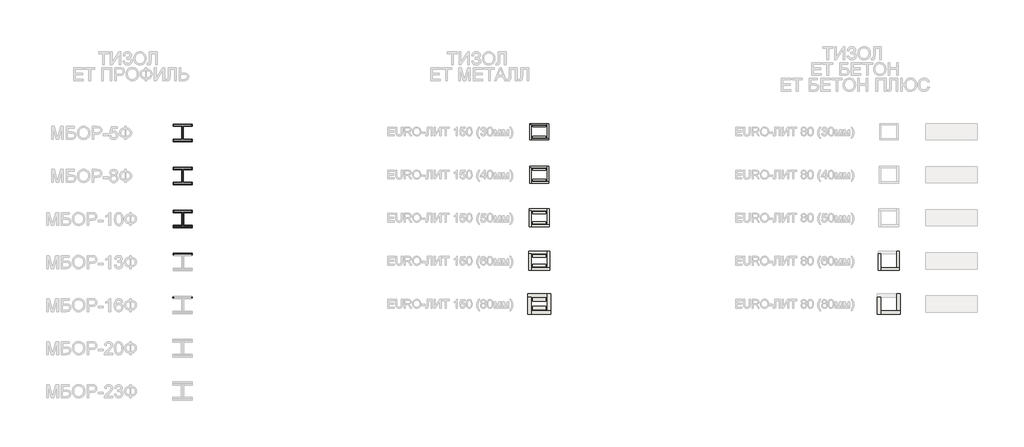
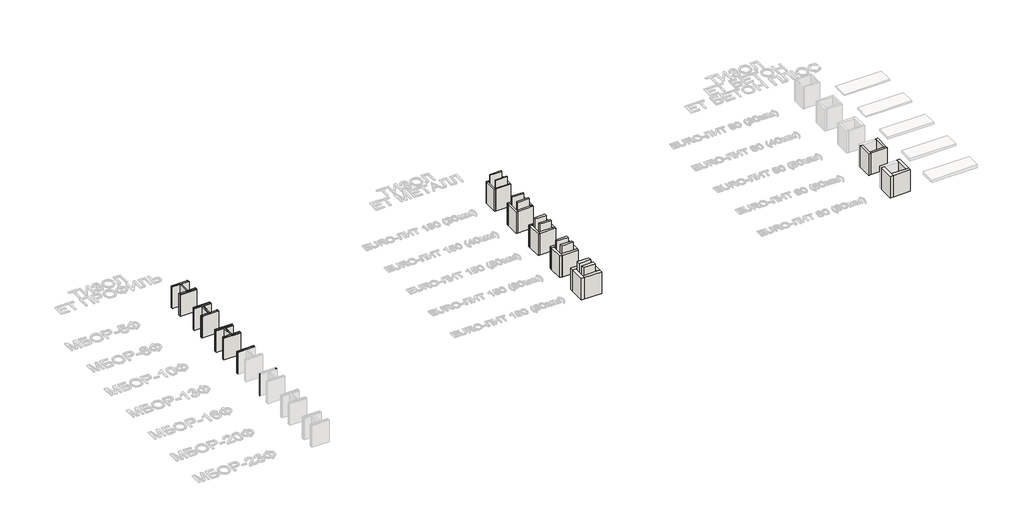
# One storey, part 3 of 35: 77 walls.
"""IFC4 building model written with IfcOpenShell, lengths in millimetres."""

import ifcopenshell
import ifcopenshell.guid

model = None  # the IFC model being written
_history = None  # IfcOwnerHistory: only IFC2X3 demands one
_inside = {}  # id of a spatial element -> (the spatial element, [elements in it])
_under = {}  # id of a project, library or spatial element -> (it, [spatial elements below it])
_declared = {}  # id of a project -> (the project, [libraries it declares])
_typed = {}  # id of a type object -> (the type object, [elements of that type])
_made_of = {}  # id of a material, layer set ... -> (it, [elements and type objects made of it])


def new_model(schema):
    """Start an empty IFC model of exactly this schema.

    Asked for "IFC4X3", IfcOpenShell would pick the latest addendum, in which some entities
    have other attributes; the version numbers below select the first issue.
    IFC2X3 requires an IfcOwnerHistory on every rooted entity: one is made here for all.
    """
    global model, _history
    if schema == "IFC4X3":
        model = ifcopenshell.file(schema_version=(4, 3, 0, 0))
    else:
        model = ifcopenshell.file(schema=schema)
    _inside.clear()
    _under.clear()
    _declared.clear()
    _typed.clear()
    _made_of.clear()
    _history = None
    if model.schema == "IFC2X3":
        org = make("IfcOrganization", Name="unknown")
        user = make(
            "IfcPersonAndOrganization",
            ThePerson=make("IfcPerson", FamilyName="unknown"),
            TheOrganization=org,
        )
        app = make(
            "IfcApplication",
            ApplicationDeveloper=org,
            Version="unknown",
            ApplicationFullName="unknown",
            ApplicationIdentifier="unknown",
        )
        _history = make(
            "IfcOwnerHistory",
            OwningUser=user,
            OwningApplication=app,
            ChangeAction="ADDED",
            CreationDate=0,
        )
    return model


def make(cls, **values):
    """One entity of the class cls with the attributes given. An attribute that is None is left unset."""
    return model.create_entity(
        cls, **{name: value for name, value in values.items() if value is not None}
    )


def rooted(cls, **values):
    """An entity with a GlobalId (a new one), such as an element, a storey or a relation."""
    return make(cls, GlobalId=ifcopenshell.guid.new(), OwnerHistory=_history, **values)


def si_unit(unit_type, name, prefix=None):
    """IfcSIUnit, for example si_unit("LENGTHUNIT", "METRE", prefix="MILLI")."""
    return make("IfcSIUnit", UnitType=unit_type, Prefix=prefix, Name=name)


def assignment(units):
    """IfcUnitAssignment: the units of a project."""
    return None if units is None else make("IfcUnitAssignment", Units=units)


def point(xyz):
    """IfcCartesianPoint."""
    return None if xyz is None else make("IfcCartesianPoint", Coordinates=xyz)


def direction(xyz):
    """IfcDirection."""
    return None if xyz is None else make("IfcDirection", DirectionRatios=xyz)


def frame(location, z_axis=None, x_axis=None):
    """IfcAxis2Placement3D, a coordinate frame: its origin and axes. An axis left out is left unset."""
    return make(
        "IfcAxis2Placement3D",
        Location=point(location),
        Axis=direction(z_axis),
        RefDirection=direction(x_axis),
    )


def origin():
    """The frame at (0, 0, 0) with its axes left unset."""
    return frame((0.0, 0.0, 0.0))


def origin_with_axes():
    """The frame at (0, 0, 0) with the z axis (0, 0, 1) and the x axis (1, 0, 0) written out."""
    return frame((0.0, 0.0, 0.0), z_axis=(0.0, 0.0, 1.0), x_axis=(1.0, 0.0, 0.0))


def place(relative_to, where):
    """IfcLocalPlacement: puts the frame where relative to a parent placement (None: the world)."""
    return make(
        "IfcLocalPlacement", PlacementRelTo=relative_to, RelativePlacement=where
    )


def context(
    kind, dimensions, precision=None, world=None, true_north=None, identifier=None
):
    """IfcGeometricRepresentationContext, for example the 3D "Model" context."""
    return make(
        "IfcGeometricRepresentationContext",
        ContextIdentifier=identifier,
        ContextType=kind,
        CoordinateSpaceDimension=dimensions,
        Precision=precision,
        WorldCoordinateSystem=world,
        TrueNorth=true_north,
    )


def project(units=None, contexts=None):
    """IfcProject with its units and contexts."""
    return rooted(
        "IfcProject",
        Name="project",
        RepresentationContexts=contexts,
        UnitsInContext=assignment(units),
    )


def spatial(cls, under=None, at=None, **own):
    """A site, building, storey or space (cls), placed at a placement, below another one or the project."""
    s = rooted(cls, ObjectPlacement=at, **own)
    if under is not None:
        _under.setdefault(under.id(), (under, []))[1].append(s)
    return s


def polyline(points):
    """IfcPolyline through the points."""
    return make("IfcPolyline", Points=[point(p) for p in points])


def outline(outer, holes=None, kind="AREA"):
    """IfcArbitraryClosedProfileDef: a profile drawn as a closed curve; with holes, ...WithVoids."""
    if holes is None:
        return make("IfcArbitraryClosedProfileDef", ProfileType=kind, OuterCurve=outer)
    return make(
        "IfcArbitraryProfileDefWithVoids",
        ProfileType=kind,
        OuterCurve=outer,
        InnerCurves=holes,
    )


def extrude(swept, where, along, depth):
    """IfcExtrudedAreaSolid: the profile swept, set in the frame where, extruded along a direction by depth."""
    return make(
        "IfcExtrudedAreaSolid",
        SweptArea=swept,
        Position=where,
        ExtrudedDirection=direction(along),
        Depth=depth,
    )


def faces_of(points, faces, orient=None, outer=None):
    """IfcFace entities. A face is a list of loops; a loop is a list of indices into points, from 0.

    orient and outer hold one flag for each loop. By default every Orientation is true, the
    first loop of a face is its IfcFaceOuterBound and the others are IfcFaceBound.
    """
    made = []
    for i, loops in enumerate(faces):
        bounds = []
        for j, loop in enumerate(loops):
            is_outer = j == 0 if outer is None else outer[i][j]
            bounds.append(
                make(
                    "IfcFaceOuterBound" if is_outer else "IfcFaceBound",
                    Bound=make("IfcPolyLoop", Polygon=[points[k] for k in loop]),
                    Orientation=True if orient is None else orient[i][j],
                )
            )
        made.append(make("IfcFace", Bounds=bounds))
    return made


def faceted_brep(points, faces, orient=None, outer=None, voids=None):
    """IfcFacetedBrep: a solid bounded by flat faces; with voids (closed shells), ...WithVoids."""
    shared = [point(p) for p in points]
    hull = make("IfcClosedShell", CfsFaces=faces_of(shared, faces, orient, outer))
    if voids is None:
        return make("IfcFacetedBrep", Outer=hull)
    return make(
        "IfcFacetedBrepWithVoids",
        Outer=hull,
        Voids=[
            make(cls, CfsFaces=faces_of(shared, fs, o, b)) for cls, fs, o, b in voids
        ],
    )


def shape(context_of_items, identifier, shape_type, items):
    """IfcShapeRepresentation: the items that make up one representation, for example the "Body"."""
    return make(
        "IfcShapeRepresentation",
        ContextOfItems=context_of_items,
        RepresentationIdentifier=identifier,
        RepresentationType=shape_type,
        Items=items,
    )


def made_of(thing, what):
    """Note that an element or type object is made of a material, layer set ...; save() writes the relation."""
    if what is not None:
        _made_of.setdefault(what.id(), (what, []))[1].append(thing)
    return thing


def element(
    cls,
    number,
    at=None,
    inside=None,
    cuts=None,
    type_object=None,
    material=None,
    context=None,
    identifier="Body",
    shape_type=None,
    held_by="IfcProductDefinitionShape",
    body=None,
    shapes=None,
    **own,
):
    """One element of the class cls, such as IfcWall. Its Tag is "e" and its number.

    at: its placement. inside: the storey or other place that contains it. cuts: it is an
    opening in that element (IfcRelVoidsElement). A single representation is given by context,
    identifier, shape_type and body (its items); several are given by shapes. held_by: the class
    of the entity that holds the representations. save() writes the other relations.
    """
    e = rooted(cls, Tag="e%d" % number, ObjectPlacement=at, **own)
    if body is not None:
        shapes = [shape(context, identifier, shape_type, body)]
    if shapes is not None:
        e.Representation = make(held_by, Representations=shapes)
    if inside is not None:
        _inside.setdefault(inside.id(), (inside, []))[1].append(e)
    if cuts is not None:
        rooted(
            "IfcRelVoidsElement", RelatingBuildingElement=cuts, RelatedOpeningElement=e
        )
    if type_object is not None:
        _typed.setdefault(type_object.id(), (type_object, []))[1].append(e)
    return made_of(e, material)


def aggregate(whole, parts):
    """IfcRelAggregates: a whole, such as a stair, and the parts it consists of."""
    return rooted("IfcRelAggregates", RelatingObject=whole, RelatedObjects=parts)


def save(model, path):
    """Write the relations noted so far, then the file.

    IfcRelAggregates (storeys below a building ...), IfcRelContainedInSpatialStructure (elements
    in a storey), IfcRelDefinesByType, IfcRelAssociatesMaterial and IfcRelDeclares: one each for
    every whole, place, type object, material and project.
    """
    for whole, parts in _under.values():
        aggregate(whole, parts)
    for where, things in _inside.values():
        rooted(
            "IfcRelContainedInSpatialStructure",
            RelatedElements=things,
            RelatingStructure=where,
        )
    for kind, things in _typed.values():
        rooted("IfcRelDefinesByType", RelatedObjects=things, RelatingType=kind)
    for what, things in _made_of.values():
        rooted("IfcRelAssociatesMaterial", RelatedObjects=things, RelatingMaterial=what)
    for by, libraries in _declared.values():
        rooted("IfcRelDeclares", RelatingContext=by, RelatedDefinitions=libraries)
    model.write(path)


model = new_model("IFC4")

# Units and contexts
model_context = context("Model", 3, world=origin())
ifc_project = project(units=[si_unit("LENGTHUNIT", "METRE", prefix="MILLI")], contexts=[model_context])

# Site, building, storey
site = spatial("IfcSite", under=ifc_project)
building = spatial("IfcBuilding", under=site)
storey = spatial("IfcBuildingStorey", under=building, Name="Этаж 01", Elevation=0.0)

# Walls
placement = place(None, origin())
element("IfcWall", 1, ObjectType="Тизол МБОР-5Ф", at=placement, inside=storey, context=model_context, shape_type="Brep", body=[
    faceted_brep([(18448.3215627, -48960.0493767, 0.0), (18453.3215627, -48960.0493767, 0.0), (18880.8384325, -48960.0493767, 0.0), (18885.8384325, -48960.0493767, 0.0), (18885.8384325, -48960.0493767, 600.0), (18880.8384325, -48960.0493767, 600.0), (18453.3215627, -48960.0493767, 600.0), (18448.3215627, -48960.0493767, 600.0), (18448.3215627, -48955.0493767, 0.0), (18448.3215627, -48955.0493767, 600.0), (18885.8384325, -48955.0493767, 600.0), (18885.8384325, -48955.0493767, 0.0)], [[[0, 1, 2, 3, 4, 5, 6, 7]], [[8, 9, 10, 11]], [[3, 2, 1, 0, 8, 11]], [[7, 6, 5, 4, 10, 9]], [[0, 7, 9, 8]], [[4, 3, 11, 10]]]),
])
element("IfcWall", 2, ObjectType="Тизол МБОР-5Ф", at=placement, inside=storey, context=model_context, shape_type="Brep", body=[
    faceted_brep([(18885.8384325, -49355.0493767, 0.0), (18880.8384325, -49355.0493767, 0.0), (18453.3215627, -49355.0493767, 0.0), (18448.3215627, -49355.0493767, 0.0), (18448.3215627, -49355.0493767, 600.0), (18453.3215627, -49355.0493767, 600.0), (18880.8384325, -49355.0493767, 600.0), (18885.8384325, -49355.0493767, 600.0), (18885.8384325, -49360.0493767, 0.0), (18885.8384325, -49360.0493767, 600.0), (18448.3215627, -49360.0493767, 600.0), (18448.3215627, -49360.0493767, 0.0)], [[[0, 1, 2, 3, 4, 5, 6, 7]], [[8, 9, 10, 11]], [[3, 2, 1, 0, 8, 11]], [[7, 6, 5, 4, 10, 9]], [[4, 3, 11, 10]], [[0, 7, 9, 8]]]),
])
element("IfcWall", 3, ObjectType="Тизол МБОР-5Ф", at=placement, inside=storey, context=model_context, shape_type="Brep", body=[
    faceted_brep([(18453.3215627, -49355.0493767, 0.0), (18453.3215627, -49310.0493767, 0.0), (18453.3215627, -49305.0493767, 0.0), (18453.3215627, -49305.0493767, 600.0), (18453.3215627, -49310.0493767, 600.0), (18453.3215627, -49355.0493767, 600.0), (18448.3215627, -49355.0493767, 0.0), (18448.3215627, -49355.0493767, 600.0), (18448.3215627, -49305.0493767, 600.0), (18448.3215627, -49305.0493767, 0.0)], [[[0, 1, 2, 3, 4, 5]], [[6, 7, 8, 9]], [[2, 1, 0, 6, 9]], [[5, 4, 3, 8, 7]], [[0, 5, 7, 6]], [[3, 2, 9, 8]]]),
])
element("IfcWall", 4, ObjectType="Тизол МБОР-5Ф", at=placement, inside=storey, context=model_context, shape_type="Brep", body=[
    faceted_brep([(18453.3215627, -49310.0493767, 0.0), (18653.3215627, -49310.0493767, 0.0), (18653.3215627, -49310.0493767, 600.0), (18453.3215627, -49310.0493767, 600.0), (18453.3215627, -49305.0493767, 0.0), (18453.3215627, -49305.0493767, 600.0), (18648.3215627, -49305.0493767, 600.0), (18653.3215627, -49305.0493767, 600.0), (18653.3215627, -49305.0493767, 0.0), (18648.3215627, -49305.0493767, 0.0)], [[[0, 1, 2, 3]], [[4, 5, 6, 7, 8, 9]], [[1, 0, 4, 9, 8]], [[3, 2, 7, 6, 5]], [[0, 3, 5, 4]], [[2, 1, 8, 7]]]),
])
element("IfcWall", 5, ObjectType="Тизол МБОР-5Ф", at=placement, inside=storey, context=model_context, shape_type="Brep", body=[
    faceted_brep([(18653.3215627, -49305.0493767, 0.0), (18653.3215627, -49005.0493767, 0.0), (18653.3215627, -49005.0493767, 600.0), (18653.3215627, -49305.0493767, 600.0), (18648.3215627, -49305.0493767, 0.0), (18648.3215627, -49305.0493767, 600.0), (18648.3215627, -49010.0493767, 600.0), (18648.3215627, -49005.0493767, 600.0), (18648.3215627, -49005.0493767, 0.0), (18648.3215627, -49010.0493767, 0.0)], [[[0, 1, 2, 3]], [[4, 5, 6, 7, 8, 9]], [[1, 0, 4, 9, 8]], [[3, 2, 7, 6, 5]], [[0, 3, 5, 4]], [[2, 1, 8, 7]]]),
])
element("IfcWall", 6, ObjectType="Тизол МБОР-5Ф", at=placement, inside=storey, context=model_context, shape_type="Brep", body=[
    faceted_brep([(18648.3215627, -49005.0493767, 0.0), (18453.3215627, -49005.0493767, 0.0), (18448.3215627, -49005.0493767, 0.0), (18448.3215627, -49005.0493767, 600.0), (18453.3215627, -49005.0493767, 600.0), (18648.3215627, -49005.0493767, 600.0), (18648.3215627, -49010.0493767, 0.0), (18648.3215627, -49010.0493767, 600.0), (18448.3215627, -49010.0493767, 600.0), (18448.3215627, -49010.0493767, 0.0)], [[[0, 1, 2, 3, 4, 5]], [[6, 7, 8, 9]], [[2, 1, 0, 6, 9]], [[5, 4, 3, 8, 7]], [[0, 5, 7, 6]], [[3, 2, 9, 8]]]),
])
element("IfcWall", 7, ObjectType="Тизол МБОР-5Ф", at=placement, inside=storey, context=model_context, shape_type="SweptSolid", body=[
    extrude(outline(polyline([(18453.3215627, -48960.0493767), (18453.3215627, -49005.0493767), (18448.3215627, -49005.0493767), (18448.3215627, -48960.0493767), (18453.3215627, -48960.0493767)])), origin_with_axes(), (0.0, 0.0, 1.0), 600.0),
])
element("IfcWall", 8, ObjectType="Тизол МБОР-5Ф", at=placement, inside=storey, context=model_context, shape_type="Brep", body=[
    faceted_brep([(18885.8384325, -49355.0493767, 0.0), (18885.8384325, -49305.0493767, 0.0), (18885.8384325, -49305.0493767, 600.0), (18885.8384325, -49355.0493767, 600.0), (18880.8384325, -49355.0493767, 0.0), (18880.8384325, -49355.0493767, 600.0), (18880.8384325, -49310.0493767, 600.0), (18880.8384325, -49305.0493767, 600.0), (18880.8384325, -49305.0493767, 0.0), (18880.8384325, -49310.0493767, 0.0)], [[[0, 1, 2, 3]], [[4, 5, 6, 7, 8, 9]], [[1, 0, 4, 9, 8]], [[3, 2, 7, 6, 5]], [[2, 1, 8, 7]], [[0, 3, 5, 4]]]),
])
element("IfcWall", 9, ObjectType="Тизол МБОР-5Ф", at=placement, inside=storey, context=model_context, shape_type="Brep", body=[
    faceted_brep([(18880.8384325, -49305.0493767, 0.0), (18685.8384325, -49305.0493767, 0.0), (18680.8384325, -49305.0493767, 0.0), (18680.8384325, -49305.0493767, 600.0), (18685.8384325, -49305.0493767, 600.0), (18880.8384325, -49305.0493767, 600.0), (18880.8384325, -49310.0493767, 0.0), (18880.8384325, -49310.0493767, 600.0), (18680.8384325, -49310.0493767, 600.0), (18680.8384325, -49310.0493767, 0.0)], [[[0, 1, 2, 3, 4, 5]], [[6, 7, 8, 9]], [[2, 1, 0, 6, 9]], [[5, 4, 3, 8, 7]], [[0, 5, 7, 6]], [[3, 2, 9, 8]]]),
])
element("IfcWall", 10, ObjectType="Тизол МБОР-5Ф", at=placement, inside=storey, context=model_context, shape_type="Brep", body=[
    faceted_brep([(18685.8384325, -49305.0493767, 0.0), (18685.8384325, -49010.0493767, 0.0), (18685.8384325, -49005.0493767, 0.0), (18685.8384325, -49005.0493767, 600.0), (18685.8384325, -49010.0493767, 600.0), (18685.8384325, -49305.0493767, 600.0), (18680.8384325, -49305.0493767, 0.0), (18680.8384325, -49305.0493767, 600.0), (18680.8384325, -49005.0493767, 600.0), (18680.8384325, -49005.0493767, 0.0)], [[[0, 1, 2, 3, 4, 5]], [[6, 7, 8, 9]], [[2, 1, 0, 6, 9]], [[5, 4, 3, 8, 7]], [[0, 5, 7, 6]], [[3, 2, 9, 8]]]),
])
element("IfcWall", 11, ObjectType="Тизол МБОР-5Ф", at=placement, inside=storey, context=model_context, shape_type="Brep", body=[
    faceted_brep([(18685.8384325, -49010.0493767, 0.0), (18885.8384325, -49010.0493767, 0.0), (18885.8384325, -49010.0493767, 600.0), (18685.8384325, -49010.0493767, 600.0), (18685.8384325, -49005.0493767, 0.0), (18685.8384325, -49005.0493767, 600.0), (18880.8384325, -49005.0493767, 600.0), (18885.8384325, -49005.0493767, 600.0), (18885.8384325, -49005.0493767, 0.0), (18880.8384325, -49005.0493767, 0.0)], [[[0, 1, 2, 3]], [[4, 5, 6, 7, 8, 9]], [[1, 0, 4, 9, 8]], [[3, 2, 7, 6, 5]], [[0, 3, 5, 4]], [[2, 1, 8, 7]]]),
])
element("IfcWall", 12, ObjectType="Тизол МБОР-5Ф", at=placement, inside=storey, context=model_context, shape_type="SweptSolid", body=[
    extrude(outline(polyline([(18885.8384325, -48960.0493767), (18885.8384325, -49005.0493767), (18880.8384325, -49005.0493767), (18880.8384325, -48960.0493767), (18885.8384325, -48960.0493767)])), origin_with_axes(), (0.0, 0.0, 1.0), 600.0),
])
element("IfcWall", 13, ObjectType="Тизол МБОР-8Ф", at=placement, inside=storey, context=model_context, shape_type="Brep", body=[
    faceted_brep([(18446.8215627, -49961.5493767, 0.0), (18454.8215627, -49961.5493767, 0.0), (18879.3384325, -49961.5493767, 0.0), (18887.3384325, -49961.5493767, 0.0), (18887.3384325, -49961.5493767, 600.0), (18879.3384325, -49961.5493767, 600.0), (18454.8215627, -49961.5493767, 600.0), (18446.8215627, -49961.5493767, 600.0), (18446.8215627, -49953.5493767, 0.0), (18446.8215627, -49953.5493767, 600.0), (18887.3384325, -49953.5493767, 600.0), (18887.3384325, -49953.5493767, 0.0)], [[[0, 1, 2, 3, 4, 5, 6, 7]], [[8, 9, 10, 11]], [[3, 2, 1, 0, 8, 11]], [[7, 6, 5, 4, 10, 9]], [[0, 7, 9, 8]], [[4, 3, 11, 10]]]),
])
element("IfcWall", 14, ObjectType="Тизол МБОР-8Ф", at=placement, inside=storey, context=model_context, shape_type="Brep", body=[
    faceted_brep([(18887.3384325, -50353.5493767, 0.0), (18879.3384325, -50353.5493767, 0.0), (18454.8215627, -50353.5493767, 0.0), (18446.8215627, -50353.5493767, 0.0), (18446.8215627, -50353.5493767, 600.0), (18454.8215627, -50353.5493767, 600.0), (18879.3384325, -50353.5493767, 600.0), (18887.3384325, -50353.5493767, 600.0), (18887.3384325, -50361.5493767, 0.0), (18887.3384325, -50361.5493767, 600.0), (18446.8215627, -50361.5493767, 600.0), (18446.8215627, -50361.5493767, 0.0)], [[[0, 1, 2, 3, 4, 5, 6, 7]], [[8, 9, 10, 11]], [[3, 2, 1, 0, 8, 11]], [[7, 6, 5, 4, 10, 9]], [[4, 3, 11, 10]], [[0, 7, 9, 8]]]),
])
element("IfcWall", 15, ObjectType="Тизол МБОР-8Ф", at=placement, inside=storey, context=model_context, shape_type="Brep", body=[
    faceted_brep([(18454.8215627, -50353.5493767, 0.0), (18454.8215627, -50311.5493767, 0.0), (18454.8215627, -50303.5493767, 0.0), (18454.8215627, -50303.5493767, 600.0), (18454.8215627, -50311.5493767, 600.0), (18454.8215627, -50353.5493767, 600.0), (18446.8215627, -50353.5493767, 0.0), (18446.8215627, -50353.5493767, 600.0), (18446.8215627, -50303.5493767, 600.0), (18446.8215627, -50303.5493767, 0.0)], [[[0, 1, 2, 3, 4, 5]], [[6, 7, 8, 9]], [[2, 1, 0, 6, 9]], [[5, 4, 3, 8, 7]], [[0, 5, 7, 6]], [[3, 2, 9, 8]]]),
])
element("IfcWall", 16, ObjectType="Тизол МБОР-8Ф", at=placement, inside=storey, context=model_context, shape_type="Brep", body=[
    faceted_brep([(18454.8215627, -50311.5493767, 0.0), (18654.8215627, -50311.5493767, 0.0), (18654.8215627, -50311.5493767, 600.0), (18454.8215627, -50311.5493767, 600.0), (18454.8215627, -50303.5493767, 0.0), (18454.8215627, -50303.5493767, 600.0), (18646.8215627, -50303.5493767, 600.0), (18654.8215627, -50303.5493767, 600.0), (18654.8215627, -50303.5493767, 0.0), (18646.8215627, -50303.5493767, 0.0)], [[[0, 1, 2, 3]], [[4, 5, 6, 7, 8, 9]], [[1, 0, 4, 9, 8]], [[3, 2, 7, 6, 5]], [[0, 3, 5, 4]], [[2, 1, 8, 7]]]),
])
element("IfcWall", 17, ObjectType="Тизол МБОР-8Ф", at=placement, inside=storey, context=model_context, shape_type="Brep", body=[
    faceted_brep([(18654.8215627, -50303.5493767, 0.0), (18654.8215627, -50003.5493767, 0.0), (18654.8215627, -50003.5493767, 600.0), (18654.8215627, -50303.5493767, 600.0), (18646.8215627, -50303.5493767, 0.0), (18646.8215627, -50303.5493767, 600.0), (18646.8215627, -50011.5493767, 600.0), (18646.8215627, -50003.5493767, 600.0), (18646.8215627, -50003.5493767, 0.0), (18646.8215627, -50011.5493767, 0.0)], [[[0, 1, 2, 3]], [[4, 5, 6, 7, 8, 9]], [[1, 0, 4, 9, 8]], [[3, 2, 7, 6, 5]], [[0, 3, 5, 4]], [[2, 1, 8, 7]]]),
])
element("IfcWall", 18, ObjectType="Тизол МБОР-8Ф", at=placement, inside=storey, context=model_context, shape_type="Brep", body=[
    faceted_brep([(18646.8215627, -50003.5493767, 0.0), (18454.8215627, -50003.5493767, 0.0), (18446.8215627, -50003.5493767, 0.0), (18446.8215627, -50003.5493767, 600.0), (18454.8215627, -50003.5493767, 600.0), (18646.8215627, -50003.5493767, 600.0), (18646.8215627, -50011.5493767, 0.0), (18646.8215627, -50011.5493767, 600.0), (18446.8215627, -50011.5493767, 600.0), (18446.8215627, -50011.5493767, 0.0)], [[[0, 1, 2, 3, 4, 5]], [[6, 7, 8, 9]], [[2, 1, 0, 6, 9]], [[5, 4, 3, 8, 7]], [[0, 5, 7, 6]], [[3, 2, 9, 8]]]),
])
element("IfcWall", 19, ObjectType="Тизол МБОР-8Ф", at=placement, inside=storey, context=model_context, shape_type="SweptSolid", body=[
    extrude(outline(polyline([(18454.8215627, -49961.5493767), (18454.8215627, -50003.5493767), (18446.8215627, -50003.5493767), (18446.8215627, -49961.5493767), (18454.8215627, -49961.5493767)])), origin_with_axes(), (0.0, 0.0, 1.0), 600.0),
])
element("IfcWall", 20, ObjectType="Тизол МБОР-8Ф", at=placement, inside=storey, context=model_context, shape_type="Brep", body=[
    faceted_brep([(18887.3384325, -50353.5493767, 0.0), (18887.3384325, -50303.5493767, 0.0), (18887.3384325, -50303.5493767, 600.0), (18887.3384325, -50353.5493767, 600.0), (18879.3384325, -50353.5493767, 0.0), (18879.3384325, -50353.5493767, 600.0), (18879.3384325, -50311.5493767, 600.0), (18879.3384325, -50303.5493767, 600.0), (18879.3384325, -50303.5493767, 0.0), (18879.3384325, -50311.5493767, 0.0)], [[[0, 1, 2, 3]], [[4, 5, 6, 7, 8, 9]], [[1, 0, 4, 9, 8]], [[3, 2, 7, 6, 5]], [[2, 1, 8, 7]], [[0, 3, 5, 4]]]),
])
element("IfcWall", 21, ObjectType="Тизол МБОР-8Ф", at=placement, inside=storey, context=model_context, shape_type="Brep", body=[
    faceted_brep([(18879.3384325, -50303.5493767, 0.0), (18687.3384325, -50303.5493767, 0.0), (18679.3384325, -50303.5493767, 0.0), (18679.3384325, -50303.5493767, 600.0), (18687.3384325, -50303.5493767, 600.0), (18879.3384325, -50303.5493767, 600.0), (18879.3384325, -50311.5493767, 0.0), (18879.3384325, -50311.5493767, 600.0), (18679.3384325, -50311.5493767, 600.0), (18679.3384325, -50311.5493767, 0.0)], [[[0, 1, 2, 3, 4, 5]], [[6, 7, 8, 9]], [[2, 1, 0, 6, 9]], [[5, 4, 3, 8, 7]], [[0, 5, 7, 6]], [[3, 2, 9, 8]]]),
])
element("IfcWall", 22, ObjectType="Тизол МБОР-8Ф", at=placement, inside=storey, context=model_context, shape_type="Brep", body=[
    faceted_brep([(18687.3384325, -50303.5493767, 0.0), (18687.3384325, -50011.5493767, 0.0), (18687.3384325, -50003.5493767, 0.0), (18687.3384325, -50003.5493767, 600.0), (18687.3384325, -50011.5493767, 600.0), (18687.3384325, -50303.5493767, 600.0), (18679.3384325, -50303.5493767, 0.0), (18679.3384325, -50303.5493767, 600.0), (18679.3384325, -50003.5493767, 600.0), (18679.3384325, -50003.5493767, 0.0)], [[[0, 1, 2, 3, 4, 5]], [[6, 7, 8, 9]], [[2, 1, 0, 6, 9]], [[5, 4, 3, 8, 7]], [[0, 5, 7, 6]], [[3, 2, 9, 8]]]),
])
element("IfcWall", 23, ObjectType="Тизол МБОР-8Ф", at=placement, inside=storey, context=model_context, shape_type="Brep", body=[
    faceted_brep([(18687.3384325, -50011.5493767, 0.0), (18887.3384325, -50011.5493767, 0.0), (18887.3384325, -50011.5493767, 600.0), (18687.3384325, -50011.5493767, 600.0), (18687.3384325, -50003.5493767, 0.0), (18687.3384325, -50003.5493767, 600.0), (18879.3384325, -50003.5493767, 600.0), (18887.3384325, -50003.5493767, 600.0), (18887.3384325, -50003.5493767, 0.0), (18879.3384325, -50003.5493767, 0.0)], [[[0, 1, 2, 3]], [[4, 5, 6, 7, 8, 9]], [[1, 0, 4, 9, 8]], [[3, 2, 7, 6, 5]], [[0, 3, 5, 4]], [[2, 1, 8, 7]]]),
])
element("IfcWall", 24, ObjectType="Тизол МБОР-8Ф", at=placement, inside=storey, context=model_context, shape_type="SweptSolid", body=[
    extrude(outline(polyline([(18887.3384325, -49961.5493767), (18887.3384325, -50003.5493767), (18879.3384325, -50003.5493767), (18879.3384325, -49961.5493767), (18887.3384325, -49961.5493767)])), origin_with_axes(), (0.0, 0.0, 1.0), 600.0),
])
element("IfcWall", 25, ObjectType="Тизол МБОР-10Ф", at=placement, inside=storey, context=model_context, shape_type="Brep", body=[
    faceted_brep([(18445.8215627, -50962.5493767, 0.0), (18455.8215627, -50962.5493767, 0.0), (18878.3384325, -50962.5493767, 0.0), (18888.3384325, -50962.5493767, 0.0), (18888.3384325, -50962.5493767, 600.0), (18878.3384325, -50962.5493767, 600.0), (18455.8215627, -50962.5493767, 600.0), (18445.8215627, -50962.5493767, 600.0), (18445.8215627, -50952.5493767, 0.0), (18445.8215627, -50952.5493767, 600.0), (18888.3384325, -50952.5493767, 600.0), (18888.3384325, -50952.5493767, 0.0)], [[[0, 1, 2, 3, 4, 5, 6, 7]], [[8, 9, 10, 11]], [[3, 2, 1, 0, 8, 11]], [[7, 6, 5, 4, 10, 9]], [[0, 7, 9, 8]], [[4, 3, 11, 10]]]),
])
element("IfcWall", 26, ObjectType="Тизол МБОР-10Ф", at=placement, inside=storey, context=model_context, shape_type="Brep", body=[
    faceted_brep([(18888.3384325, -51352.5493767, 0.0), (18878.3384325, -51352.5493767, 0.0), (18455.8215627, -51352.5493767, 0.0), (18445.8215627, -51352.5493767, 0.0), (18445.8215627, -51352.5493767, 600.0), (18455.8215627, -51352.5493767, 600.0), (18878.3384325, -51352.5493767, 600.0), (18888.3384325, -51352.5493767, 600.0), (18888.3384325, -51362.5493767, 0.0), (18888.3384325, -51362.5493767, 600.0), (18445.8215627, -51362.5493767, 600.0), (18445.8215627, -51362.5493767, 0.0)], [[[0, 1, 2, 3, 4, 5, 6, 7]], [[8, 9, 10, 11]], [[3, 2, 1, 0, 8, 11]], [[7, 6, 5, 4, 10, 9]], [[4, 3, 11, 10]], [[0, 7, 9, 8]]]),
])
element("IfcWall", 27, ObjectType="Тизол МБОР-10Ф", at=placement, inside=storey, context=model_context, shape_type="Brep", body=[
    faceted_brep([(18455.8215627, -51352.5493767, 0.0), (18455.8215627, -51312.5493767, 0.0), (18455.8215627, -51302.5493767, 0.0), (18455.8215627, -51302.5493767, 600.0), (18455.8215627, -51312.5493767, 600.0), (18455.8215627, -51352.5493767, 600.0), (18445.8215627, -51352.5493767, 0.0), (18445.8215627, -51352.5493767, 600.0), (18445.8215627, -51302.5493767, 600.0), (18445.8215627, -51302.5493767, 0.0)], [[[0, 1, 2, 3, 4, 5]], [[6, 7, 8, 9]], [[2, 1, 0, 6, 9]], [[5, 4, 3, 8, 7]], [[0, 5, 7, 6]], [[3, 2, 9, 8]]]),
])
element("IfcWall", 28, ObjectType="Тизол МБОР-10Ф", at=placement, inside=storey, context=model_context, shape_type="Brep", body=[
    faceted_brep([(18455.8215627, -51312.5493767, 0.0), (18655.8215627, -51312.5493767, 0.0), (18655.8215627, -51312.5493767, 600.0), (18455.8215627, -51312.5493767, 600.0), (18455.8215627, -51302.5493767, 0.0), (18455.8215627, -51302.5493767, 600.0), (18645.8215627, -51302.5493767, 600.0), (18655.8215627, -51302.5493767, 600.0), (18655.8215627, -51302.5493767, 0.0), (18645.8215627, -51302.5493767, 0.0)], [[[0, 1, 2, 3]], [[4, 5, 6, 7, 8, 9]], [[1, 0, 4, 9, 8]], [[3, 2, 7, 6, 5]], [[0, 3, 5, 4]], [[2, 1, 8, 7]]]),
])
element("IfcWall", 29, ObjectType="Тизол МБОР-10Ф", at=placement, inside=storey, context=model_context, shape_type="Brep", body=[
    faceted_brep([(18655.8215627, -51302.5493767, 0.0), (18655.8215627, -51002.5493767, 0.0), (18655.8215627, -51002.5493767, 600.0), (18655.8215627, -51302.5493767, 600.0), (18645.8215627, -51302.5493767, 0.0), (18645.8215627, -51302.5493767, 600.0), (18645.8215627, -51012.5493767, 600.0), (18645.8215627, -51002.5493767, 600.0), (18645.8215627, -51002.5493767, 0.0), (18645.8215627, -51012.5493767, 0.0)], [[[0, 1, 2, 3]], [[4, 5, 6, 7, 8, 9]], [[1, 0, 4, 9, 8]], [[3, 2, 7, 6, 5]], [[0, 3, 5, 4]], [[2, 1, 8, 7]]]),
])
element("IfcWall", 30, ObjectType="Тизол МБОР-10Ф", at=placement, inside=storey, context=model_context, shape_type="Brep", body=[
    faceted_brep([(18645.8215627, -51002.5493767, 0.0), (18455.8215627, -51002.5493767, 0.0), (18445.8215627, -51002.5493767, 0.0), (18445.8215627, -51002.5493767, 600.0), (18455.8215627, -51002.5493767, 600.0), (18645.8215627, -51002.5493767, 600.0), (18645.8215627, -51012.5493767, 0.0), (18645.8215627, -51012.5493767, 600.0), (18445.8215627, -51012.5493767, 600.0), (18445.8215627, -51012.5493767, 0.0)], [[[0, 1, 2, 3, 4, 5]], [[6, 7, 8, 9]], [[2, 1, 0, 6, 9]], [[5, 4, 3, 8, 7]], [[0, 5, 7, 6]], [[3, 2, 9, 8]]]),
])
element("IfcWall", 31, ObjectType="Тизол МБОР-10Ф", at=placement, inside=storey, context=model_context, shape_type="SweptSolid", body=[
    extrude(outline(polyline([(18455.8215627, -50962.5493767), (18455.8215627, -51002.5493767), (18445.8215627, -51002.5493767), (18445.8215627, -50962.5493767), (18455.8215627, -50962.5493767)])), origin_with_axes(), (0.0, 0.0, 1.0), 600.0),
])
element("IfcWall", 32, ObjectType="Тизол МБОР-10Ф", at=placement, inside=storey, context=model_context, shape_type="Brep", body=[
    faceted_brep([(18888.3384325, -51352.5493767, 0.0), (18888.3384325, -51302.5493767, 0.0), (18888.3384325, -51302.5493767, 600.0), (18888.3384325, -51352.5493767, 600.0), (18878.3384325, -51352.5493767, 0.0), (18878.3384325, -51352.5493767, 600.0), (18878.3384325, -51312.5493767, 600.0), (18878.3384325, -51302.5493767, 600.0), (18878.3384325, -51302.5493767, 0.0), (18878.3384325, -51312.5493767, 0.0)], [[[0, 1, 2, 3]], [[4, 5, 6, 7, 8, 9]], [[1, 0, 4, 9, 8]], [[3, 2, 7, 6, 5]], [[2, 1, 8, 7]], [[0, 3, 5, 4]]]),
])
element("IfcWall", 33, ObjectType="Тизол МБОР-10Ф", at=placement, inside=storey, context=model_context, shape_type="Brep", body=[
    faceted_brep([(18878.3384325, -51302.5493767, 0.0), (18688.3384325, -51302.5493767, 0.0), (18678.3384325, -51302.5493767, 0.0), (18678.3384325, -51302.5493767, 600.0), (18688.3384325, -51302.5493767, 600.0), (18878.3384325, -51302.5493767, 600.0), (18878.3384325, -51312.5493767, 0.0), (18878.3384325, -51312.5493767, 600.0), (18678.3384325, -51312.5493767, 600.0), (18678.3384325, -51312.5493767, 0.0)], [[[0, 1, 2, 3, 4, 5]], [[6, 7, 8, 9]], [[2, 1, 0, 6, 9]], [[5, 4, 3, 8, 7]], [[0, 5, 7, 6]], [[3, 2, 9, 8]]]),
])
element("IfcWall", 34, ObjectType="Тизол МБОР-10Ф", at=placement, inside=storey, context=model_context, shape_type="Brep", body=[
    faceted_brep([(18688.3384325, -51302.5493767, 0.0), (18688.3384325, -51012.5493767, 0.0), (18688.3384325, -51002.5493767, 0.0), (18688.3384325, -51002.5493767, 600.0), (18688.3384325, -51012.5493767, 600.0), (18688.3384325, -51302.5493767, 600.0), (18678.3384325, -51302.5493767, 0.0), (18678.3384325, -51302.5493767, 600.0), (18678.3384325, -51002.5493767, 600.0), (18678.3384325, -51002.5493767, 0.0)], [[[0, 1, 2, 3, 4, 5]], [[6, 7, 8, 9]], [[2, 1, 0, 6, 9]], [[5, 4, 3, 8, 7]], [[0, 5, 7, 6]], [[3, 2, 9, 8]]]),
])
element("IfcWall", 35, ObjectType="Тизол МБОР-10Ф", at=placement, inside=storey, context=model_context, shape_type="Brep", body=[
    faceted_brep([(18688.3384325, -51012.5493767, 0.0), (18888.3384325, -51012.5493767, 0.0), (18888.3384325, -51012.5493767, 600.0), (18688.3384325, -51012.5493767, 600.0), (18688.3384325, -51002.5493767, 0.0), (18688.3384325, -51002.5493767, 600.0), (18878.3384325, -51002.5493767, 600.0), (18888.3384325, -51002.5493767, 600.0), (18888.3384325, -51002.5493767, 0.0), (18878.3384325, -51002.5493767, 0.0)], [[[0, 1, 2, 3]], [[4, 5, 6, 7, 8, 9]], [[1, 0, 4, 9, 8]], [[3, 2, 7, 6, 5]], [[0, 3, 5, 4]], [[2, 1, 8, 7]]]),
])
element("IfcWall", 36, ObjectType="Тизол МБОР-10Ф", at=placement, inside=storey, context=model_context, shape_type="SweptSolid", body=[
    extrude(outline(polyline([(18888.3384325, -50962.5493767), (18888.3384325, -51002.5493767), (18878.3384325, -51002.5493767), (18878.3384325, -50962.5493767), (18888.3384325, -50962.5493767)])), origin_with_axes(), (0.0, 0.0, 1.0), 600.0),
])
element("IfcWall", 37, ObjectType="Тизол МБОР-13Ф", at=placement, inside=storey, context=model_context, shape_type="Brep", body=[
    faceted_brep([(18444.3215627, -51964.0493767, 0.0), (18457.3215627, -51964.0493767, 0.0), (18876.8384325, -51964.0493767, 0.0), (18889.8384325, -51964.0493767, 0.0), (18889.8384325, -51964.0493767, 600.0), (18876.8384325, -51964.0493767, 600.0), (18457.3215627, -51964.0493767, 600.0), (18444.3215627, -51964.0493767, 600.0), (18444.3215627, -51951.0493767, 0.0), (18444.3215627, -51951.0493767, 600.0), (18889.8384325, -51951.0493767, 600.0), (18889.8384325, -51951.0493767, 0.0)], [[[0, 1, 2, 3, 4, 5, 6, 7]], [[8, 9, 10, 11]], [[3, 2, 1, 0, 8, 11]], [[7, 6, 5, 4, 10, 9]], [[0, 7, 9, 8]], [[4, 3, 11, 10]]]),
])
element("IfcWall", 38, ObjectType="Тизол МБОР-13Ф", at=placement, inside=storey, context=model_context, shape_type="SweptSolid", body=[
    extrude(outline(polyline([(18457.3215627, -51964.0493767), (18457.3215627, -52001.0493767), (18444.3215627, -52001.0493767), (18444.3215627, -51964.0493767), (18457.3215627, -51964.0493767)])), origin_with_axes(), (0.0, 0.0, 1.0), 600.0),
])
element("IfcWall", 39, ObjectType="Тизол МБОР-13Ф", at=placement, inside=storey, context=model_context, shape_type="SweptSolid", body=[
    extrude(outline(polyline([(18889.8384325, -51964.0493767), (18889.8384325, -52001.0493767), (18876.8384325, -52001.0493767), (18876.8384325, -51964.0493767), (18889.8384325, -51964.0493767)])), origin_with_axes(), (0.0, 0.0, 1.0), 600.0),
])
element("IfcWall", 40, ObjectType="Тизол МБОР-16Ф", at=placement, inside=storey, context=model_context, shape_type="SweptSolid", body=[
    extrude(outline(polyline([(18458.8215627, -52965.5493767), (18458.8215627, -52999.5493767), (18442.8215627, -52999.5493767), (18442.8215627, -52965.5493767), (18458.8215627, -52965.5493767)])), origin_with_axes(), (0.0, 0.0, 1.0), 600.0),
])
element("IfcWall", 41, ObjectType="Тизол МБОР-16Ф", at=placement, inside=storey, context=model_context, shape_type="SweptSolid", body=[
    extrude(outline(polyline([(18891.3384325, -52965.5493767), (18891.3384325, -52999.5493767), (18875.3384325, -52999.5493767), (18875.3384325, -52965.5493767), (18891.3384325, -52965.5493767)])), origin_with_axes(), (0.0, 0.0, 1.0), 600.0),
])
element("IfcWall", 42, ObjectType="Тизол EURO-ЛИТ 150 (30мм)", at=placement, inside=storey, context=model_context, shape_type="Brep", body=[
    faceted_brep([(26735.8215627, -48972.5493767, 0.0), (26765.8215627, -48972.5493767, 0.0), (27135.8215627, -48972.5493767, 0.0), (27135.8215627, -48972.5493767, 600.0), (26765.8215627, -48972.5493767, 600.0), (26735.8215627, -48972.5493767, 600.0), (26735.8215627, -48942.5493767, 0.0), (26735.8215627, -48942.5493767, 600.0), (27135.8215627, -48942.5493767, 600.0), (27135.8215627, -48942.5493767, 0.0)], [[[0, 1, 2, 3, 4, 5]], [[6, 7, 8, 9]], [[2, 1, 0, 6, 9]], [[5, 4, 3, 8, 7]], [[0, 5, 7, 6]], [[3, 2, 9, 8]]]),
])
element("IfcWall", 43, ObjectType="Тизол EURO-ЛИТ 150 (30мм)", at=placement, inside=storey, context=model_context, shape_type="Brep", body=[
    faceted_brep([(26765.8215627, -49322.5493767, 0.0), (26765.8215627, -49292.5493767, 0.0), (26765.8215627, -48972.5493767, 0.0), (26765.8215627, -48972.5493767, 600.0), (26765.8215627, -49292.5493767, 600.0), (26765.8215627, -49322.5493767, 600.0), (26735.8215627, -49322.5493767, 0.0), (26735.8215627, -49322.5493767, 600.0), (26735.8215627, -48972.5493767, 600.0), (26735.8215627, -48972.5493767, 0.0)], [[[0, 1, 2, 3, 4, 5]], [[6, 7, 8, 9]], [[2, 1, 0, 6, 9]], [[5, 4, 3, 8, 7]], [[0, 5, 7, 6]], [[3, 2, 9, 8]]]),
])
element("IfcWall", 44, ObjectType="Тизол EURO-ЛИТ 150 (30мм)", at=placement, inside=storey, context=model_context, shape_type="Brep", body=[
    faceted_brep([(27165.8215627, -49292.5493767, 0.0), (27135.8215627, -49292.5493767, 0.0), (26765.8215627, -49292.5493767, 0.0), (26765.8215627, -49292.5493767, 600.0), (27135.8215627, -49292.5493767, 600.0), (27165.8215627, -49292.5493767, 600.0), (27165.8215627, -49322.5493767, 0.0), (27165.8215627, -49322.5493767, 600.0), (26765.8215627, -49322.5493767, 600.0), (26765.8215627, -49322.5493767, 0.0)], [[[0, 1, 2, 3, 4, 5]], [[6, 7, 8, 9]], [[2, 1, 0, 6, 9]], [[5, 4, 3, 8, 7]], [[0, 5, 7, 6]], [[3, 2, 9, 8]]]),
])
element("IfcWall", 45, ObjectType="Тизол EURO-ЛИТ 150 (30мм)", at=placement, inside=storey, context=model_context, shape_type="Brep", body=[
    faceted_brep([(27135.8215627, -48942.5493767, 0.0), (27135.8215627, -48972.5493767, 0.0), (27135.8215627, -49292.5493767, 0.0), (27135.8215627, -49292.5493767, 600.0), (27135.8215627, -48972.5493767, 600.0), (27135.8215627, -48942.5493767, 600.0), (27165.8215627, -48942.5493767, 0.0), (27165.8215627, -48942.5493767, 600.0), (27165.8215627, -49292.5493767, 600.0), (27165.8215627, -49292.5493767, 0.0)], [[[0, 1, 2, 3, 4, 5]], [[6, 7, 8, 9]], [[2, 1, 0, 6, 9]], [[5, 4, 3, 8, 7]], [[0, 5, 7, 6]], [[3, 2, 9, 8]]]),
])
element("IfcWall", 46, ObjectType="Тизол EURO-ЛИТ 150 (30мм)", at=placement, inside=storey, context=model_context, shape_type="SweptSolid", body=[
    extrude(outline(polyline([(27100.8215627, -49022.5493767), (26800.8215627, -49022.5493767), (26800.8215627, -48992.5493767), (27100.8215627, -48992.5493767), (27100.8215627, -49022.5493767)])), origin_with_axes(), (0.0, 0.0, 1.0), 800.0),
])
element("IfcWall", 47, ObjectType="Тизол EURO-ЛИТ 150 (30мм)", at=placement, inside=storey, context=model_context, shape_type="SweptSolid", body=[
    extrude(outline(polyline([(27100.8215627, -49272.5493767), (26800.8215627, -49272.5493767), (26800.8215627, -49242.5493767), (27100.8215627, -49242.5493767), (27100.8215627, -49272.5493767)])), origin_with_axes(), (0.0, 0.0, 1.0), 800.0),
])
element("IfcWall", 48, ObjectType="Тизол EURO-ЛИТ 150 (40мм)", at=placement, inside=storey, context=model_context, shape_type="Brep", body=[
    faceted_brep([(26725.8215627, -49972.5493767, 0.0), (26765.8215627, -49972.5493767, 0.0), (27135.8215627, -49972.5493767, 0.0), (27135.8215627, -49972.5493767, 600.0), (26765.8215627, -49972.5493767, 600.0), (26725.8215627, -49972.5493767, 600.0), (26725.8215627, -49932.5493767, 0.0), (26725.8215627, -49932.5493767, 600.0), (27135.8215627, -49932.5493767, 600.0), (27135.8215627, -49932.5493767, 0.0)], [[[0, 1, 2, 3, 4, 5]], [[6, 7, 8, 9]], [[2, 1, 0, 6, 9]], [[5, 4, 3, 8, 7]], [[0, 5, 7, 6]], [[3, 2, 9, 8]]]),
])
element("IfcWall", 49, ObjectType="Тизол EURO-ЛИТ 150 (40мм)", at=placement, inside=storey, context=model_context, shape_type="Brep", body=[
    faceted_brep([(26765.8215627, -50332.5493767, 0.0), (26765.8215627, -50292.5493767, 0.0), (26765.8215627, -49972.5493767, 0.0), (26765.8215627, -49972.5493767, 600.0), (26765.8215627, -50292.5493767, 600.0), (26765.8215627, -50332.5493767, 600.0), (26725.8215627, -50332.5493767, 0.0), (26725.8215627, -50332.5493767, 600.0), (26725.8215627, -49972.5493767, 600.0), (26725.8215627, -49972.5493767, 0.0)], [[[0, 1, 2, 3, 4, 5]], [[6, 7, 8, 9]], [[2, 1, 0, 6, 9]], [[5, 4, 3, 8, 7]], [[0, 5, 7, 6]], [[3, 2, 9, 8]]]),
])
element("IfcWall", 50, ObjectType="Тизол EURO-ЛИТ 150 (40мм)", at=placement, inside=storey, context=model_context, shape_type="Brep", body=[
    faceted_brep([(27175.8215627, -50292.5493767, 0.0), (27135.8215627, -50292.5493767, 0.0), (26765.8215627, -50292.5493767, 0.0), (26765.8215627, -50292.5493767, 600.0), (27135.8215627, -50292.5493767, 600.0), (27175.8215627, -50292.5493767, 600.0), (27175.8215627, -50332.5493767, 0.0), (27175.8215627, -50332.5493767, 600.0), (26765.8215627, -50332.5493767, 600.0), (26765.8215627, -50332.5493767, 0.0)], [[[0, 1, 2, 3, 4, 5]], [[6, 7, 8, 9]], [[2, 1, 0, 6, 9]], [[5, 4, 3, 8, 7]], [[0, 5, 7, 6]], [[3, 2, 9, 8]]]),
])
element("IfcWall", 51, ObjectType="Тизол EURO-ЛИТ 150 (40мм)", at=placement, inside=storey, context=model_context, shape_type="Brep", body=[
    faceted_brep([(27135.8215627, -49932.5493767, 0.0), (27135.8215627, -49972.5493767, 0.0), (27135.8215627, -50292.5493767, 0.0), (27135.8215627, -50292.5493767, 600.0), (27135.8215627, -49972.5493767, 600.0), (27135.8215627, -49932.5493767, 600.0), (27175.8215627, -49932.5493767, 0.0), (27175.8215627, -49932.5493767, 600.0), (27175.8215627, -50292.5493767, 600.0), (27175.8215627, -50292.5493767, 0.0)], [[[0, 1, 2, 3, 4, 5]], [[6, 7, 8, 9]], [[2, 1, 0, 6, 9]], [[5, 4, 3, 8, 7]], [[0, 5, 7, 6]], [[3, 2, 9, 8]]]),
])
element("IfcWall", 52, ObjectType="Тизол EURO-ЛИТ 150 (40мм)", at=placement, inside=storey, context=model_context, shape_type="SweptSolid", body=[
    extrude(outline(polyline([(27100.8215627, -50032.5493767), (26800.8215627, -50032.5493767), (26800.8215627, -49992.5493767), (27100.8215627, -49992.5493767), (27100.8215627, -50032.5493767)])), origin_with_axes(), (0.0, 0.0, 1.0), 800.0),
])
element("IfcWall", 53, ObjectType="Тизол EURO-ЛИТ 150 (40мм)", at=placement, inside=storey, context=model_context, shape_type="SweptSolid", body=[
    extrude(outline(polyline([(27100.8215627, -50272.5493767), (26800.8215627, -50272.5493767), (26800.8215627, -50232.5493767), (27100.8215627, -50232.5493767), (27100.8215627, -50272.5493767)])), origin_with_axes(), (0.0, 0.0, 1.0), 800.0),
])
element("IfcWall", 54, ObjectType="Тизол EURO-ЛИТ 150 (50мм)", at=placement, inside=storey, context=model_context, shape_type="Brep", body=[
    faceted_brep([(26715.8215627, -50972.5493767, 0.0), (26765.8215627, -50972.5493767, 0.0), (27135.8215627, -50972.5493767, 0.0), (27135.8215627, -50972.5493767, 600.0), (26765.8215627, -50972.5493767, 600.0), (26715.8215627, -50972.5493767, 600.0), (26715.8215627, -50922.5493767, 0.0), (26715.8215627, -50922.5493767, 600.0), (27135.8215627, -50922.5493767, 600.0), (27135.8215627, -50922.5493767, 0.0)], [[[0, 1, 2, 3, 4, 5]], [[6, 7, 8, 9]], [[2, 1, 0, 6, 9]], [[5, 4, 3, 8, 7]], [[0, 5, 7, 6]], [[3, 2, 9, 8]]]),
])
element("IfcWall", 55, ObjectType="Тизол EURO-ЛИТ 150 (50мм)", at=placement, inside=storey, context=model_context, shape_type="Brep", body=[
    faceted_brep([(26765.8215627, -51342.5493767, 0.0), (26765.8215627, -51292.5493767, 0.0), (26765.8215627, -50972.5493767, 0.0), (26765.8215627, -50972.5493767, 600.0), (26765.8215627, -51292.5493767, 600.0), (26765.8215627, -51342.5493767, 600.0), (26715.8215627, -51342.5493767, 0.0), (26715.8215627, -51342.5493767, 600.0), (26715.8215627, -50972.5493767, 600.0), (26715.8215627, -50972.5493767, 0.0)], [[[0, 1, 2, 3, 4, 5]], [[6, 7, 8, 9]], [[2, 1, 0, 6, 9]], [[5, 4, 3, 8, 7]], [[0, 5, 7, 6]], [[3, 2, 9, 8]]]),
])
element("IfcWall", 56, ObjectType="Тизол EURO-ЛИТ 150 (50мм)", at=placement, inside=storey, context=model_context, shape_type="Brep", body=[
    faceted_brep([(27185.8215627, -51292.5493767, 0.0), (27135.8215627, -51292.5493767, 0.0), (26765.8215627, -51292.5493767, 0.0), (26765.8215627, -51292.5493767, 600.0), (27135.8215627, -51292.5493767, 600.0), (27185.8215627, -51292.5493767, 600.0), (27185.8215627, -51342.5493767, 0.0), (27185.8215627, -51342.5493767, 600.0), (26765.8215627, -51342.5493767, 600.0), (26765.8215627, -51342.5493767, 0.0)], [[[0, 1, 2, 3, 4, 5]], [[6, 7, 8, 9]], [[2, 1, 0, 6, 9]], [[5, 4, 3, 8, 7]], [[0, 5, 7, 6]], [[3, 2, 9, 8]]]),
])
element("IfcWall", 57, ObjectType="Тизол EURO-ЛИТ 150 (50мм)", at=placement, inside=storey, context=model_context, shape_type="Brep", body=[
    faceted_brep([(27135.8215627, -50922.5493767, 0.0), (27135.8215627, -50972.5493767, 0.0), (27135.8215627, -51292.5493767, 0.0), (27135.8215627, -51292.5493767, 600.0), (27135.8215627, -50972.5493767, 600.0), (27135.8215627, -50922.5493767, 600.0), (27185.8215627, -50922.5493767, 0.0), (27185.8215627, -50922.5493767, 600.0), (27185.8215627, -51292.5493767, 600.0), (27185.8215627, -51292.5493767, 0.0)], [[[0, 1, 2, 3, 4, 5]], [[6, 7, 8, 9]], [[2, 1, 0, 6, 9]], [[5, 4, 3, 8, 7]], [[0, 5, 7, 6]], [[3, 2, 9, 8]]]),
])
element("IfcWall", 58, ObjectType="Тизол EURO-ЛИТ 150 (50мм)", at=placement, inside=storey, context=model_context, shape_type="SweptSolid", body=[
    extrude(outline(polyline([(27100.8215627, -51042.5493767), (26800.8215627, -51042.5493767), (26800.8215627, -50992.5493767), (27100.8215627, -50992.5493767), (27100.8215627, -51042.5493767)])), origin_with_axes(), (0.0, 0.0, 1.0), 800.0),
])
element("IfcWall", 59, ObjectType="Тизол EURO-ЛИТ 150 (50мм)", at=placement, inside=storey, context=model_context, shape_type="SweptSolid", body=[
    extrude(outline(polyline([(27100.8215627, -51272.5493767), (26800.8215627, -51272.5493767), (26800.8215627, -51222.5493767), (27100.8215627, -51222.5493767), (27100.8215627, -51272.5493767)])), origin_with_axes(), (0.0, 0.0, 1.0), 800.0),
])
element("IfcWall", 60, ObjectType="Тизол EURO-ЛИТ 150 (60мм)", at=placement, inside=storey, context=model_context, shape_type="Brep", body=[
    faceted_brep([(26705.8215627, -51972.5493767, 0.0), (26765.8215627, -51972.5493767, 0.0), (27135.8215627, -51972.5493767, 0.0), (27135.8215627, -51972.5493767, 600.0), (26765.8215627, -51972.5493767, 600.0), (26705.8215627, -51972.5493767, 600.0), (26705.8215627, -51912.5493767, 0.0), (26705.8215627, -51912.5493767, 600.0), (27135.8215627, -51912.5493767, 600.0), (27135.8215627, -51912.5493767, 0.0)], [[[0, 1, 2, 3, 4, 5]], [[6, 7, 8, 9]], [[2, 1, 0, 6, 9]], [[5, 4, 3, 8, 7]], [[0, 5, 7, 6]], [[3, 2, 9, 8]]]),
])
element("IfcWall", 61, ObjectType="Тизол EURO-ЛИТ 150 (60мм)", at=placement, inside=storey, context=model_context, shape_type="Brep", body=[
    faceted_brep([(26765.8215627, -52352.5493767, 0.0), (26765.8215627, -52292.5493767, 0.0), (26765.8215627, -51972.5493767, 0.0), (26765.8215627, -51972.5493767, 600.0), (26765.8215627, -52292.5493767, 600.0), (26765.8215627, -52352.5493767, 600.0), (26705.8215627, -52352.5493767, 0.0), (26705.8215627, -52352.5493767, 600.0), (26705.8215627, -51972.5493767, 600.0), (26705.8215627, -51972.5493767, 0.0)], [[[0, 1, 2, 3, 4, 5]], [[6, 7, 8, 9]], [[2, 1, 0, 6, 9]], [[5, 4, 3, 8, 7]], [[0, 5, 7, 6]], [[3, 2, 9, 8]]]),
])
element("IfcWall", 62, ObjectType="Тизол EURO-ЛИТ 150 (60мм)", at=placement, inside=storey, context=model_context, shape_type="Brep", body=[
    faceted_brep([(27195.8215627, -52292.5493767, 0.0), (27135.8215627, -52292.5493767, 0.0), (26765.8215627, -52292.5493767, 0.0), (26765.8215627, -52292.5493767, 600.0), (27135.8215627, -52292.5493767, 600.0), (27195.8215627, -52292.5493767, 600.0), (27195.8215627, -52352.5493767, 0.0), (27195.8215627, -52352.5493767, 600.0), (26765.8215627, -52352.5493767, 600.0), (26765.8215627, -52352.5493767, 0.0)], [[[0, 1, 2, 3, 4, 5]], [[6, 7, 8, 9]], [[2, 1, 0, 6, 9]], [[5, 4, 3, 8, 7]], [[0, 5, 7, 6]], [[3, 2, 9, 8]]]),
])
element("IfcWall", 63, ObjectType="Тизол EURO-ЛИТ 150 (60мм)", at=placement, inside=storey, context=model_context, shape_type="Brep", body=[
    faceted_brep([(27135.8215627, -51912.5493767, 0.0), (27135.8215627, -51972.5493767, 0.0), (27135.8215627, -52292.5493767, 0.0), (27135.8215627, -52292.5493767, 600.0), (27135.8215627, -51972.5493767, 600.0), (27135.8215627, -51912.5493767, 600.0), (27195.8215627, -51912.5493767, 0.0), (27195.8215627, -51912.5493767, 600.0), (27195.8215627, -52292.5493767, 600.0), (27195.8215627, -52292.5493767, 0.0)], [[[0, 1, 2, 3, 4, 5]], [[6, 7, 8, 9]], [[2, 1, 0, 6, 9]], [[5, 4, 3, 8, 7]], [[0, 5, 7, 6]], [[3, 2, 9, 8]]]),
])
element("IfcWall", 64, ObjectType="Тизол EURO-ЛИТ 150 (60мм)", at=placement, inside=storey, context=model_context, shape_type="SweptSolid", body=[
    extrude(outline(polyline([(27100.8215627, -52052.5493767), (26800.8215627, -52052.5493767), (26800.8215627, -51992.5493767), (27100.8215627, -51992.5493767), (27100.8215627, -52052.5493767)])), origin_with_axes(), (0.0, 0.0, 1.0), 800.0),
])
element("IfcWall", 65, ObjectType="Тизол EURO-ЛИТ 150 (60мм)", at=placement, inside=storey, context=model_context, shape_type="SweptSolid", body=[
    extrude(outline(polyline([(27100.8215627, -52272.5493767), (26800.8215627, -52272.5493767), (26800.8215627, -52212.5493767), (27100.8215627, -52212.5493767), (27100.8215627, -52272.5493767)])), origin_with_axes(), (0.0, 0.0, 1.0), 800.0),
])
element("IfcWall", 66, ObjectType="Тизол EURO-ЛИТ 150 (80мм)", at=placement, inside=storey, context=model_context, shape_type="Brep", body=[
    faceted_brep([(26685.8215627, -52972.5493767, 0.0), (26765.8215627, -52972.5493767, 0.0), (27135.8215627, -52972.5493767, 0.0), (27135.8215627, -52972.5493767, 600.0), (26765.8215627, -52972.5493767, 600.0), (26685.8215627, -52972.5493767, 600.0), (26685.8215627, -52892.5493767, 0.0), (26685.8215627, -52892.5493767, 600.0), (27135.8215627, -52892.5493767, 600.0), (27135.8215627, -52892.5493767, 0.0)], [[[0, 1, 2, 3, 4, 5]], [[6, 7, 8, 9]], [[2, 1, 0, 6, 9]], [[5, 4, 3, 8, 7]], [[0, 5, 7, 6]], [[3, 2, 9, 8]]]),
])
element("IfcWall", 67, ObjectType="Тизол EURO-ЛИТ 150 (80мм)", at=placement, inside=storey, context=model_context, shape_type="Brep", body=[
    faceted_brep([(26765.8215627, -53372.5493767, 0.0), (26765.8215627, -53292.5493767, 0.0), (26765.8215627, -52972.5493767, 0.0), (26765.8215627, -52972.5493767, 600.0), (26765.8215627, -53292.5493767, 600.0), (26765.8215627, -53372.5493767, 600.0), (26685.8215627, -53372.5493767, 0.0), (26685.8215627, -53372.5493767, 600.0), (26685.8215627, -52972.5493767, 600.0), (26685.8215627, -52972.5493767, 0.0)], [[[0, 1, 2, 3, 4, 5]], [[6, 7, 8, 9]], [[2, 1, 0, 6, 9]], [[5, 4, 3, 8, 7]], [[0, 5, 7, 6]], [[3, 2, 9, 8]]]),
])
element("IfcWall", 68, ObjectType="Тизол EURO-ЛИТ 150 (80мм)", at=placement, inside=storey, context=model_context, shape_type="Brep", body=[
    faceted_brep([(27215.8215627, -53292.5493767, 0.0), (27135.8215627, -53292.5493767, 0.0), (26765.8215627, -53292.5493767, 0.0), (26765.8215627, -53292.5493767, 600.0), (27135.8215627, -53292.5493767, 600.0), (27215.8215627, -53292.5493767, 600.0), (27215.8215627, -53372.5493767, 0.0), (27215.8215627, -53372.5493767, 600.0), (26765.8215627, -53372.5493767, 600.0), (26765.8215627, -53372.5493767, 0.0)], [[[0, 1, 2, 3, 4, 5]], [[6, 7, 8, 9]], [[2, 1, 0, 6, 9]], [[5, 4, 3, 8, 7]], [[0, 5, 7, 6]], [[3, 2, 9, 8]]]),
])
element("IfcWall", 69, ObjectType="Тизол EURO-ЛИТ 150 (80мм)", at=placement, inside=storey, context=model_context, shape_type="Brep", body=[
    faceted_brep([(27135.8215627, -52892.5493767, 0.0), (27135.8215627, -52972.5493767, 0.0), (27135.8215627, -53292.5493767, 0.0), (27135.8215627, -53292.5493767, 600.0), (27135.8215627, -52972.5493767, 600.0), (27135.8215627, -52892.5493767, 600.0), (27215.8215627, -52892.5493767, 0.0), (27215.8215627, -52892.5493767, 600.0), (27215.8215627, -53292.5493767, 600.0), (27215.8215627, -53292.5493767, 0.0)], [[[0, 1, 2, 3, 4, 5]], [[6, 7, 8, 9]], [[2, 1, 0, 6, 9]], [[5, 4, 3, 8, 7]], [[0, 5, 7, 6]], [[3, 2, 9, 8]]]),
])
element("IfcWall", 70, ObjectType="Тизол EURO-ЛИТ 150 (80мм)", at=placement, inside=storey, context=model_context, shape_type="SweptSolid", body=[
    extrude(outline(polyline([(27100.8215627, -53072.5493767), (26800.8215627, -53072.5493767), (26800.8215627, -52992.5493767), (27100.8215627, -52992.5493767), (27100.8215627, -53072.5493767)])), origin_with_axes(), (0.0, 0.0, 1.0), 800.0),
])
element("IfcWall", 71, ObjectType="Тизол EURO-ЛИТ 150 (80мм)", at=placement, inside=storey, context=model_context, shape_type="SweptSolid", body=[
    extrude(outline(polyline([(27100.8215627, -53272.5493767), (26800.8215627, -53272.5493767), (26800.8215627, -53192.5493767), (27100.8215627, -53192.5493767), (27100.8215627, -53272.5493767)])), origin_with_axes(), (0.0, 0.0, 1.0), 800.0),
])
element("IfcWall", 72, ObjectType="Тизол EURO-ЛИТ 150 (60мм)", at=placement, inside=storey, context=model_context, shape_type="Brep", body=[
    faceted_brep([(34885.8215627, -52352.5493767, 0.0), (34885.8215627, -52292.5493767, 0.0), (34885.8215627, -51972.5493767, 0.0), (34885.8215627, -51972.5493767, 600.0), (34885.8215627, -52292.5493767, 600.0), (34885.8215627, -52352.5493767, 600.0), (34825.8215627, -52352.5493767, 0.0), (34825.8215627, -52352.5493767, 600.0), (34825.8215627, -51972.5493767, 600.0), (34825.8215627, -51972.5493767, 0.0)], [[[0, 1, 2, 3, 4, 5]], [[6, 7, 8, 9]], [[2, 1, 0, 6, 9]], [[5, 4, 3, 8, 7]], [[0, 5, 7, 6]], [[3, 2, 9, 8]]]),
])
element("IfcWall", 73, ObjectType="Тизол EURO-ЛИТ 150 (60мм)", at=placement, inside=storey, context=model_context, shape_type="Brep", body=[
    faceted_brep([(35315.8215627, -52292.5493767, 0.0), (35255.8215627, -52292.5493767, 0.0), (34885.8215627, -52292.5493767, 0.0), (34885.8215627, -52292.5493767, 600.0), (35255.8215627, -52292.5493767, 600.0), (35315.8215627, -52292.5493767, 600.0), (35315.8215627, -52352.5493767, 0.0), (35315.8215627, -52352.5493767, 600.0), (34885.8215627, -52352.5493767, 600.0), (34885.8215627, -52352.5493767, 0.0)], [[[0, 1, 2, 3, 4, 5]], [[6, 7, 8, 9]], [[2, 1, 0, 6, 9]], [[5, 4, 3, 8, 7]], [[0, 5, 7, 6]], [[3, 2, 9, 8]]]),
])
element("IfcWall", 74, ObjectType="Тизол EURO-ЛИТ 150 (60мм)", at=placement, inside=storey, context=model_context, shape_type="Brep", body=[
    faceted_brep([(35255.8215627, -51912.5493767, 0.0), (35255.8215627, -51972.5493767, 0.0), (35255.8215627, -52292.5493767, 0.0), (35255.8215627, -52292.5493767, 600.0), (35255.8215627, -51972.5493767, 600.0), (35255.8215627, -51912.5493767, 600.0), (35315.8215627, -51912.5493767, 0.0), (35315.8215627, -51912.5493767, 600.0), (35315.8215627, -52292.5493767, 600.0), (35315.8215627, -52292.5493767, 0.0)], [[[0, 1, 2, 3, 4, 5]], [[6, 7, 8, 9]], [[2, 1, 0, 6, 9]], [[5, 4, 3, 8, 7]], [[0, 5, 7, 6]], [[3, 2, 9, 8]]]),
])
element("IfcWall", 75, ObjectType="Тизол EURO-ЛИТ 150 (80мм)", at=placement, inside=storey, context=model_context, shape_type="Brep", body=[
    faceted_brep([(34885.8215627, -53372.5493767, 0.0), (34885.8215627, -53292.5493767, 0.0), (34885.8215627, -52972.5493767, 0.0), (34885.8215627, -52972.5493767, 600.0), (34885.8215627, -53292.5493767, 600.0), (34885.8215627, -53372.5493767, 600.0), (34805.8215627, -53372.5493767, 0.0), (34805.8215627, -53372.5493767, 600.0), (34805.8215627, -52972.5493767, 600.0), (34805.8215627, -52972.5493767, 0.0)], [[[0, 1, 2, 3, 4, 5]], [[6, 7, 8, 9]], [[2, 1, 0, 6, 9]], [[5, 4, 3, 8, 7]], [[0, 5, 7, 6]], [[3, 2, 9, 8]]]),
])
element("IfcWall", 76, ObjectType="Тизол EURO-ЛИТ 150 (80мм)", at=placement, inside=storey, context=model_context, shape_type="Brep", body=[
    faceted_brep([(35335.8215627, -53292.5493767, 0.0), (35255.8215627, -53292.5493767, 0.0), (34885.8215627, -53292.5493767, 0.0), (34885.8215627, -53292.5493767, 600.0), (35255.8215627, -53292.5493767, 600.0), (35335.8215627, -53292.5493767, 600.0), (35335.8215627, -53372.5493767, 0.0), (35335.8215627, -53372.5493767, 600.0), (34885.8215627, -53372.5493767, 600.0), (34885.8215627, -53372.5493767, 0.0)], [[[0, 1, 2, 3, 4, 5]], [[6, 7, 8, 9]], [[2, 1, 0, 6, 9]], [[5, 4, 3, 8, 7]], [[0, 5, 7, 6]], [[3, 2, 9, 8]]]),
])
element("IfcWall", 77, ObjectType="Тизол EURO-ЛИТ 150 (80мм)", at=placement, inside=storey, context=model_context, shape_type="Brep", body=[
    faceted_brep([(35255.8215627, -52892.5493767, 0.0), (35255.8215627, -52972.5493767, 0.0), (35255.8215627, -53292.5493767, 0.0), (35255.8215627, -53292.5493767, 600.0), (35255.8215627, -52972.5493767, 600.0), (35255.8215627, -52892.5493767, 600.0), (35335.8215627, -52892.5493767, 0.0), (35335.8215627, -52892.5493767, 600.0), (35335.8215627, -53292.5493767, 600.0), (35335.8215627, -53292.5493767, 0.0)], [[[0, 1, 2, 3, 4, 5]], [[6, 7, 8, 9]], [[2, 1, 0, 6, 9]], [[5, 4, 3, 8, 7]], [[0, 5, 7, 6]], [[3, 2, 9, 8]]]),
])

save(model, "model.ifc")
